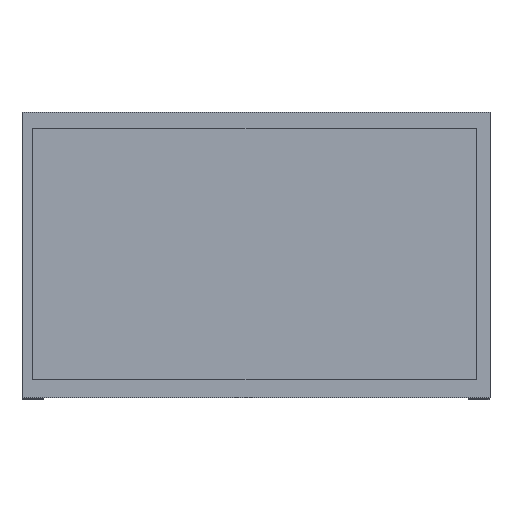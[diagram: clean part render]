
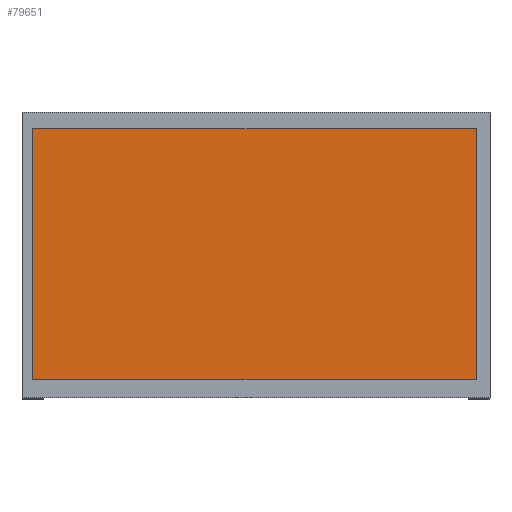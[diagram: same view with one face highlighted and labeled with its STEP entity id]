
A CAD part, top view. The second image highlights one B-rep face of the part: STEP entity #79651.
In plain terms, the highlighted planar face has unit normal (0, 0, 1).
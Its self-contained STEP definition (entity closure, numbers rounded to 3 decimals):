
#8880=FACE_OUTER_BOUND('',#12879,.T.);
#12879=EDGE_LOOP('',(#54102,#54103,#54104,#54105));
#17037=LINE('',#114310,#26208);
#17047=LINE('',#114330,#26218);
#17049=LINE('',#114333,#26220);
#17050=LINE('',#114335,#26221);
#26208=VECTOR('',#91162,10.);
#26218=VECTOR('',#91176,10.);
#26220=VECTOR('',#91180,10.);
#26221=VECTOR('',#91183,10.);
#35379=VERTEX_POINT('',#114307);
#35380=VERTEX_POINT('',#114309);
#35387=VERTEX_POINT('',#114327);
#35388=VERTEX_POINT('',#114329);
#42756=EDGE_CURVE('',#35379,#35380,#17037,.T.);
#42766=EDGE_CURVE('',#35387,#35388,#17047,.T.);
#42768=EDGE_CURVE('',#35387,#35380,#17049,.T.);
#42769=EDGE_CURVE('',#35388,#35379,#17050,.T.);
#54102=ORIENTED_EDGE('',*,*,#42768,.T.);
#54103=ORIENTED_EDGE('',*,*,#42756,.F.);
#54104=ORIENTED_EDGE('',*,*,#42769,.F.);
#54105=ORIENTED_EDGE('',*,*,#42766,.F.);
#76674=PLANE('',#84178);
#79651=ADVANCED_FACE('',(#8880),#76674,.T.);
#84178=AXIS2_PLACEMENT_3D('',#114353,#91202,#91203);
#91162=DIRECTION('',(0.,-1.,0.));
#91176=DIRECTION('',(0.,1.,0.));
#91180=DIRECTION('',(1.,0.,0.));
#91183=DIRECTION('',(1.,0.,0.));
#91202=DIRECTION('center_axis',(0.,0.,1.));
#91203=DIRECTION('ref_axis',(1.,0.,0.));
#114307=CARTESIAN_POINT('',(111.11,63.53,2.563));
#114309=CARTESIAN_POINT('',(111.11,-62.75,2.563));
#114310=CARTESIAN_POINT('',(111.11,63.53,2.563));
#114327=CARTESIAN_POINT('',(-112.61,-62.75,2.563));
#114329=CARTESIAN_POINT('',(-112.61,63.53,2.563));
#114330=CARTESIAN_POINT('',(-112.61,-62.75,2.563));
#114333=CARTESIAN_POINT('',(-56.25,-62.75,2.563));
#114335=CARTESIAN_POINT('',(111.,63.53,2.563));
#114353=CARTESIAN_POINT('Origin',(0.,-87.928,2.563));
